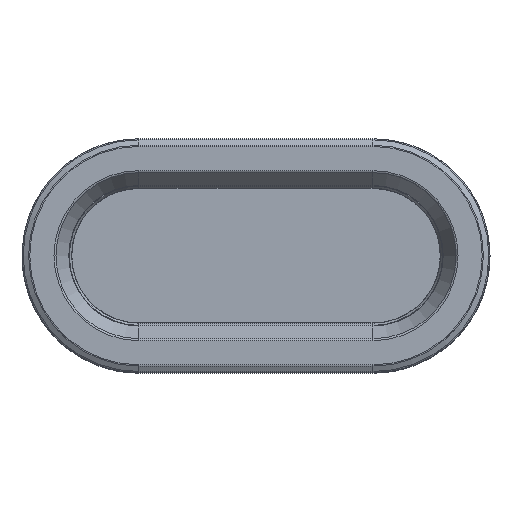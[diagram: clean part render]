
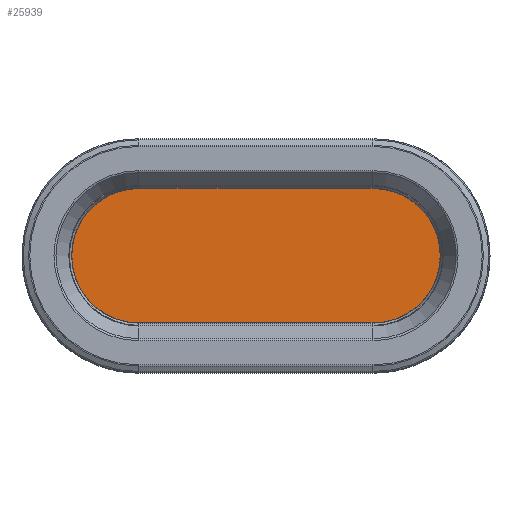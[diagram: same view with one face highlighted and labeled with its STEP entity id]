
A CAD part, top view. The second image highlights one B-rep face of the part: STEP entity #25939.
In plain terms, the highlighted planar face has unit normal (0, 0, 1) as drawn and (0, 0, -1) by its records, which use the part's own axes.
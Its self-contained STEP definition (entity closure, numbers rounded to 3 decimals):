
#25788=DIRECTION('',(1.,0.,0.));
#25789=VECTOR('',#25788,200.);
#25790=CARTESIAN_POINT('',(66.,0.,0.));
#25791=LINE('',#25790,#25789);
#25792=CARTESIAN_POINT('',(266.,66.,0.));
#25793=DIRECTION('',(0.,0.,1.));
#25794=DIRECTION('',(0.,-1.,0.));
#25795=AXIS2_PLACEMENT_3D('',#25792,#25793,#25794);
#25797=DIRECTION('',(-1.,0.,0.));
#25798=VECTOR('',#25797,200.);
#25799=CARTESIAN_POINT('',(266.,132.,0.));
#25800=LINE('',#25799,#25798);
#25801=CARTESIAN_POINT('',(66.,66.,0.));
#25802=DIRECTION('',(0.,0.,1.));
#25803=DIRECTION('',(0.,1.,0.));
#25804=AXIS2_PLACEMENT_3D('',#25801,#25802,#25803);
#25892=CARTESIAN_POINT('',(66.,0.,0.));
#25893=CARTESIAN_POINT('',(266.,0.,0.));
#25894=VERTEX_POINT('',#25892);
#25895=VERTEX_POINT('',#25893);
#25896=CARTESIAN_POINT('',(266.,132.,0.));
#25897=CARTESIAN_POINT('',(66.,132.,0.));
#25898=VERTEX_POINT('',#25896);
#25899=VERTEX_POINT('',#25897);
#25924=CARTESIAN_POINT('',(0.,0.,0.));
#25925=DIRECTION('',(0.,0.,1.));
#25926=DIRECTION('',(1.,0.,0.));
#25927=AXIS2_PLACEMENT_3D('',#25924,#25925,#25926);
#25928=PLANE('',#25927);
#25930=ORIENTED_EDGE('',*,*,#25929,.T.);
#25932=ORIENTED_EDGE('',*,*,#25931,.T.);
#25934=ORIENTED_EDGE('',*,*,#25933,.T.);
#25936=ORIENTED_EDGE('',*,*,#25935,.T.);
#25937=EDGE_LOOP('',(#25930,#25932,#25934,#25936));
#25938=FACE_OUTER_BOUND('',#25937,.F.);
#25939=ADVANCED_FACE('',(#25938),#25928,.F.);
#25796=CIRCLE('',#25795,66.);
#25805=CIRCLE('',#25804,66.);
#25929=EDGE_CURVE('',#25894,#25895,#25791,.T.);
#25931=EDGE_CURVE('',#25895,#25898,#25796,.T.);
#25933=EDGE_CURVE('',#25898,#25899,#25800,.T.);
#25935=EDGE_CURVE('',#25899,#25894,#25805,.T.);
